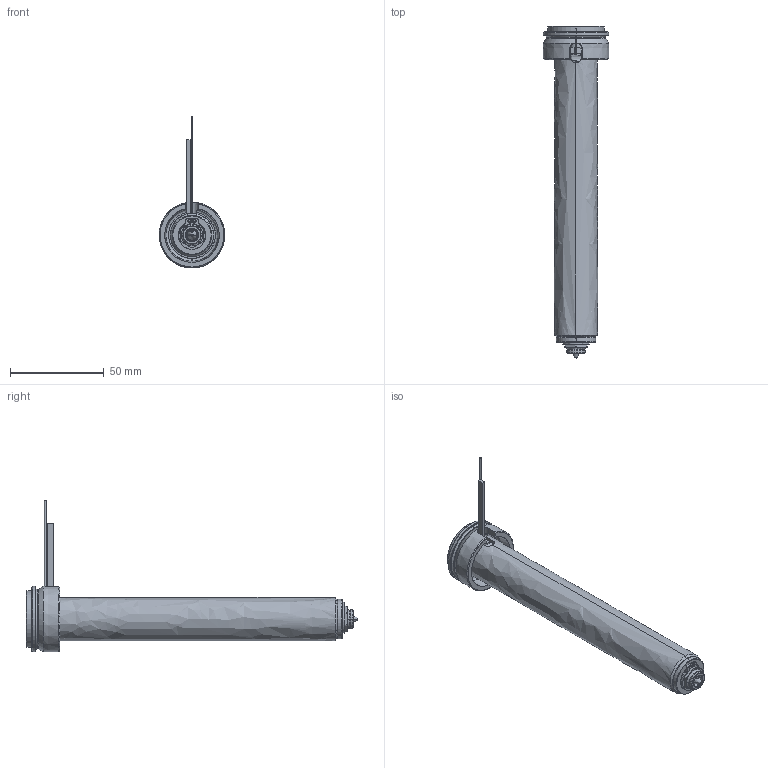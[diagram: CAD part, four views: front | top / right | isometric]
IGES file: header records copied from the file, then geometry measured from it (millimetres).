
Start section: SolidWorks IGES file using analytic representation for surfaces
Global section: file name: C:\Documents and Settings\ws-20\Desktop\TEM\UGEP3054-M-A-0 [Øf-1.10 ØC-6.0].IGS; native system: SolidWorks 2012; preprocessor: SolidWorks 2012; author: ws-20; date: 120402.112521; units: millimetre
Bounding box: 35 x 176.8 x 80.9 mm (x, y, z)
Surface area: 25201.5 mm2 (no closed solid volume)
Topology: 0 solids, 0 shells, 126 faces, 1712 edges, 1712 vertices
Faces by surface type: revolution 77, bspline 49
